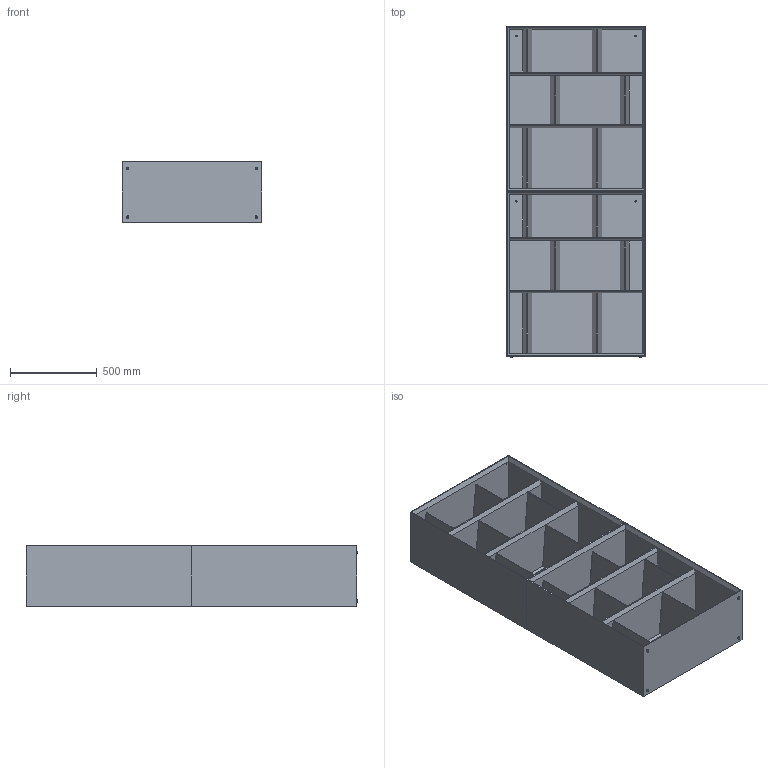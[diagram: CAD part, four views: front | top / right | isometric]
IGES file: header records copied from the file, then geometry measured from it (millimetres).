
Start section: SolidWorks IGES file using analytic representation for surfaces
Global section: file name: Y:\eforma\TECNICO\SOLIDWORKS\E-FORMA\08-LIBRERIE\LIBRERIA BENDY\02 parts\BL12S_Bendy Ax2_80x35x190h.IGS; native system: SolidWorks 2022; preprocessor: SolidWorks 2022; author: eforma.tech; date: 240806.102942; units: millimetre
Bounding box: 800 x 1907 x 350 mm (x, y, z)
Volume: 74420365 mm3; surface area: 14191030.6 mm2
Topology: 34 solids, 34 shells, 744 faces, 1764 edges, 1084 vertices
Faces by surface type: plane 456, revolution 288
